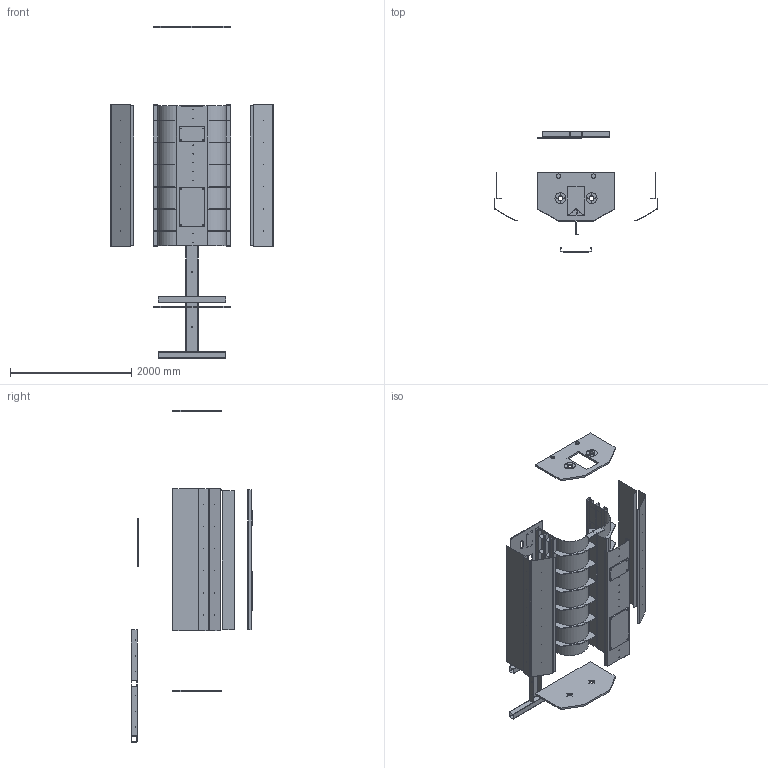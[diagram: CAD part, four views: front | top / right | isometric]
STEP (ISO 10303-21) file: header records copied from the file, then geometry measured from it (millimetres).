
FILE_DESCRIPTION(('HOOPS Exchange Step'),'2;1');
FILE_NAME('Y:\_FDM\CONCORSO_CAPPELLER\FILE DA INVIARE 2\VASCA_CONCORSO_CAPPELLER_2_MOD_SCHELETRO_CON_ LAMIERE.stp','2026-08-26T10:30:55+02:00',('alessandro'),('Unknown organisation'),'HOOPS Exchange 2025.7','HOOPS Exchange','Unknown authorisation');
FILE_SCHEMA( ('AUTOMOTIVE_DESIGN { 1 0 10303 214 1 1 1 1 }') );
Length unit declared in the file: metre
Products named in the file (25): PIASTRA SUPERIORE; TUBI FE_Default<A macchina>; FIANCO LATERALE; FIANCO LATERALE ESTERNO; LAMIERA DI RINFORZO INTERNO; RINFORZO PICCOLO SX; RINFORZO PICCOLO DX; LAMIERA INFERIORE; PIASTRA PICCOLA INFERIORE; PIASTRA GARNDE INFERIORE; LONGHERONE DI RINFORZO; PIATTO UNIONE LAMIERE INTERNE; FONDO; TESTATA ANTERIORE; TESTATA POSTERIORE; RINFORZO; FIANCO LATERALE SOTTO; LAMIERA DX INTERNO VASCA; LAMIERA SX INTERNO VASCA; CASTELLO SUPERIORE; VASCA_CONCORSO_CAPPELLER_SCHELETRO_CON_ LAMIERE; Disegno1
Assembly tree (48 placements, depth 4):
  Disegno1
    VASCA_CONCORSO_CAPPELLER_SCHELETRO_CON_ LAMIERE
      PIASTRA SUPERIORE
      FIANCO LATERALE ESTERNO
        TUBI FE_Default<A macchina>
        FIANCO LATERALE
      FONDO
        LAMIERA DI RINFORZO INTERNO
        RINFORZO PICCOLO SX  x6
        RINFORZO PICCOLO DX  x6
        LAMIERA INFERIORE
        PIASTRA PICCOLA INFERIORE
        PIASTRA GARNDE INFERIORE
        LONGHERONE DI RINFORZO
        PIATTO UNIONE LAMIERE INTERNE
      TESTATA ANTERIORE
      TESTATA POSTERIORE
      FIANCO LATERALE SOTTO
        RINFORZO  x6
        FIANCO LATERALE SOTTO
      FIANCO LATERALE ESTERNO
        TUBI FE_Default<A macchina>
        FIANCO LATERALE
      LAMIERA DX INTERNO VASCA
      FIANCO LATERALE SOTTO
        RINFORZO  x6
        FIANCO LATERALE SOTTO
      LAMIERA SX INTERNO VASCA
      CASTELLO SUPERIORE
Bounding box: 2689 x 2010.28 x 5479.03 mm (x, y, z)
Volume: 142379296.9 mm3; surface area: 45826215.7 mm2
Topology: 78 solids, 90 shells, 980 faces, 2531 edges, 1724 vertices
Faces by surface type: plane 720, cylinder 260
Full cylindrical faces by diameter (mm): 7 x12, 8 x40, 8.5 x4, 10 x4, 12 x32, 14 x8, 17.5 x2, 70 x2, 80 x4, 180 x4, 300 x2
Entity records: 19249 total; most frequent: DIRECTION 3333, CARTESIAN_POINT 3238, ORIENTED_EDGE 3062, EDGE_CURVE 1547, AXIS2_PLACEMENT_3D 1171, VERTEX_POINT 1068, VECTOR 991, LINE 991
